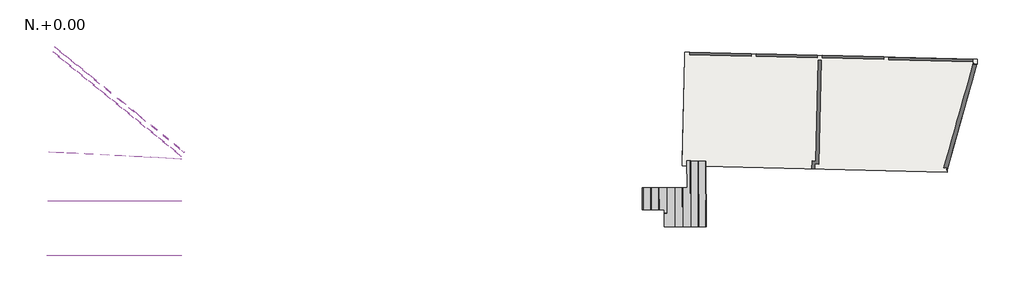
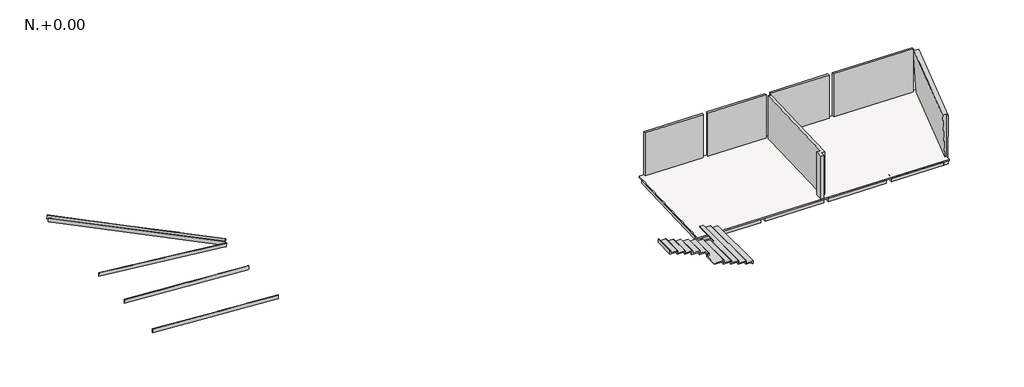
# One storey: 12 beams, 6 proxies, 1 slab, 1 stair flight.
"""IFC4 building model written with IfcOpenShell, lengths in millimetres."""

from ifc_helpers import new_model, si_unit, frame, origin, place, context, project, spatial, polyline, outline, extrude, faceted_brep, transform, mapped, element, save
from ifc_brep_helpers import plane_surface, spline_surface, advanced_brep
from components import stair_flight_43c18c51

model = new_model("IFC4")

# Units and contexts
model_context = context("Model", 3, world=origin())
ifc_project = project(units=[si_unit("LENGTHUNIT", "METRE", prefix="MILLI")], contexts=[model_context])

# Site, building, storey
site = spatial("IfcSite", under=ifc_project)
building = spatial("IfcBuilding", under=site)
storey = spatial("IfcBuildingStorey", under=building, Name="N.+0.00", Elevation=-3010.0)

# Beams
placement = place(None, origin())
element("IfcBeam", 1, ObjectType="Concrete-Rectangular Beam : VGT-304(18X03)EN MADERA", at=placement, inside=storey, context=model_context, shape_type="Brep", body=[
    faceted_brep([(7072.5055456, 5424.6254064, 5527.5922375), (7070.9385717, 5394.6665203, 5527.690929), (7059.117388, 5394.6665203, 5340.0), (7058.3670452, 5394.6665203, 5328.0864282), (7059.9340191, 5424.6254064, 5327.9877368), (7060.6905776, 5424.6254064, 5340.0), (246.811579, 5783.0536598, 5957.4893205), (234.2400525, 5783.0536598, 5757.8848197), (232.6730786, 5753.0947737, 5757.9835111), (245.2446051, 5753.0947737, 5957.5880119), (5480.6251158, 5508.2176279, 5627.8523366), (5450.6480228, 5509.7917736, 5629.7403592), (3780.1413826, 5597.5127849, 5734.9525084), (3750.1642896, 5599.0869306, 5736.840531), (2079.6576495, 5686.8079419, 5842.0526802), (2049.6805565, 5688.3820876, 5843.9407028), (2049.1566661, 5658.3684276, 5843.9736986), (2079.1337591, 5656.7942819, 5842.0856759), (3749.6403992, 5569.0732706, 5736.8735268), (3779.6174923, 5567.4991249, 5734.9855041), (5450.1241324, 5479.7781136, 5629.773355), (5480.1012254, 5478.2039679, 5627.8853323), (6998.7018097, 5397.7996386, 5331.8442748), (6998.7018097, 5427.840809, 5331.8442748)], [[[0, 1, 2, 3, 4, 5]], [[6, 7, 8, 9]], [[1, 0, 10, 11, 12, 13, 14, 15, 6, 9, 16, 17, 18, 19, 20, 21]], [[3, 2, 1, 21, 20, 19, 18, 17, 16, 9, 8, 22]], [[4, 3, 22, 8, 7, 23]], [[0, 5, 4, 23, 7, 6, 15, 14, 13, 12, 11, 10]]]),
])
element("IfcBeam", 2, ObjectType="Concrete-Rectangular Beam : VGT-305(18X03)EN MADERA", at=placement, inside=storey, context=model_context, shape_type="Brep", body=[
    faceted_brep([(7043.8755927, 3244.7441735, 5529.3954144), (7043.8755927, 3214.7441735, 5529.3954144), (7031.9470567, 3214.7441735, 5340.0), (7031.3040662, 3214.7441735, 5329.7909136), (7031.3040662, 3244.7441735, 5329.7909136), (7031.9470567, 3244.7441735, 5340.0), (183.9662693, 3244.7441735, 5961.447455), (171.3947428, 3244.7441735, 5761.8429543), (171.3947428, 3214.7441735, 5761.8429543), (183.9662693, 3214.7441735, 5961.447455), (5441.1160397, 3244.7441735, 5630.3407043), (5411.1114698, 3244.7441735, 5632.2304575), (3739.0736538, 3244.7441735, 5737.5390435), (3709.0690839, 3244.7441735, 5739.4287967), (2037.0312679, 3244.7441735, 5844.7373826), (2007.026698, 3244.7441735, 5846.6271358), (2006.5030461, 3214.7441735, 5846.6601165), (2036.5076159, 3214.7441735, 5844.7703633), (3708.545432, 3214.7441735, 5739.4617774), (3738.5500018, 3214.7441735, 5737.5720242), (5410.5878179, 3214.7441735, 5632.2634383), (5440.5923877, 3214.7441735, 5630.373685), (6998.7018097, 3214.7441735, 5331.8442748), (6998.7018097, 3244.7441735, 5331.8442748)], [[[0, 1, 2, 3, 4, 5]], [[6, 7, 8, 9]], [[1, 0, 10, 11, 12, 13, 14, 15, 6, 9, 16, 17, 18, 19, 20, 21]], [[3, 2, 1, 21, 20, 19, 18, 17, 16, 9, 8, 22]], [[4, 3, 22, 8, 7, 23]], [[0, 5, 4, 23, 7, 6, 15, 14, 13, 12, 11, 10]]]),
])
element("IfcBeam", 3, ObjectType="Concrete-Rectangular Beam : VGT-306(18X03)EN MADERA", at=placement, inside=storey, context=model_context, shape_type="Brep", body=[
    faceted_brep([(7043.8755927, 430.1773784, 5529.3954144), (7043.8755927, 400.1773784, 5529.3954144), (7031.9470567, 400.1773784, 5340.0), (7031.3040662, 400.1773784, 5329.7909136), (7031.3040662, 430.1773784, 5329.7909136), (7031.9470567, 430.1773784, 5340.0), (114.5402296, 430.1773784, 5965.8200583), (101.9687031, 430.1773784, 5766.2155576), (101.9687031, 400.1773784, 5766.2155576), (114.5402296, 400.1773784, 5965.8200583), (5391.9875935, 430.1773784, 5633.4349209), (5367.1380394, 430.1773784, 5635.0), (3689.9452076, 430.1773784, 5740.6332601), (3659.9406378, 430.1773784, 5742.5230133), (3659.4169858, 400.1773784, 5742.555994), (3689.4215557, 400.1773784, 5740.6662408), (5367.1380394, 400.1773784, 5635.0), (5391.4639416, 400.1773784, 5633.4679017), (6998.7018097, 400.1773784, 5331.8442748), (6998.7018097, 430.1773784, 5331.8442748)], [[[0, 1, 2, 3, 4, 5]], [[6, 7, 8, 9]], [[1, 0, 10, 11, 12, 13, 6, 9, 14, 15, 16, 17]], [[3, 2, 1, 17, 16, 15, 14, 9, 8, 18]], [[4, 3, 18, 8, 7, 19]], [[0, 5, 4, 19, 7, 6, 13, 12, 11, 10]]]),
])
element("IfcBeam", 4, ObjectType="Concrete-Rectangular Beam : VGT-310(18X03)EN MADERA", at=placement, inside=storey, context=model_context, shape_type="Brep", body=[
    faceted_brep([(425.182822, 10918.1319885, 5946.2551108), (444.0476211, 10941.4280754, 5945.0669646), (431.4760946, 10941.4280754, 5745.4624639), (412.6112955, 10918.1319885, 5746.6506101), (7059.1882169, 5524.7104932, 5528.4309919), (7047.3204223, 5524.7104932, 5340.0), (7046.6166904, 5524.7104932, 5328.8264912), (7065.4814895, 5548.0065801, 5327.638345), (7066.2600535, 5548.0065801, 5340.0), (7078.053016, 5548.0065801, 5527.2428458), (6998.7018097, 5602.2982092, 5331.8442748), (6998.7018097, 5563.6651114, 5331.8442748)], [[[0, 1, 2, 3]], [[4, 5, 6, 7, 8, 9]], [[1, 0, 4, 9]], [[2, 1, 9, 8, 7, 10]], [[3, 2, 10, 7, 6, 11]], [[0, 3, 11, 6, 5, 4]]]),
])
element("IfcBeam", 5, ObjectType="Concrete-Rectangular Beam : VGT-310(18X03)EN MADERA", at=placement, inside=storey, context=model_context, shape_type="Brep", body=[
    faceted_brep([(503.7422175, 11175.7359264, 5941.3072689), (522.6070166, 11199.0320132, 5940.1191227), (510.0354901, 11199.0320132, 5740.5146219), (491.1706909, 11175.7359264, 5741.7027681), (7199.7476628, 5731.9086227, 5519.5782517), (7187.1761363, 5731.9086227, 5319.9737509), (7206.0409354, 5755.2047096, 5318.7856047), (7218.6124619, 5755.2047096, 5518.3901055), (2202.6808154, 9794.5052207, 5834.3044131), (2239.5813547, 9764.5052207, 5831.9803367), (3752.7965862, 8534.266915, 5736.6747433), (3789.6971255, 8504.266915, 5734.3506669), (4537.5436235, 7896.2705181, 5687.2496645), (4567.5436235, 7871.8806306, 5685.3601991), (5431.3402782, 7169.6171913, 5630.9564031), (5468.2408175, 7139.6171913, 5628.6323267), (5515.7602222, 7139.6171913, 5625.639451), (5478.8596829, 7169.6171913, 5627.9635274), (4567.5436235, 7910.5137284, 5685.3601991), (4537.5436235, 7934.9036158, 5687.2496645), (3837.2165303, 8504.266915, 5731.3577912), (3800.315991, 8534.266915, 5733.6818676), (2287.1007594, 9764.5052207, 5828.987461), (2250.2002201, 9794.5052207, 5831.3115374), (7148.7018097, 5801.8212036, 5322.3969479), (6998.7018097, 5923.7706408, 5331.8442748), (7148.7018097, 5763.1881058, 5322.3969479), (6998.7018097, 5885.137543, 5331.8442748)], [[[0, 1, 2, 3]], [[4, 5, 6, 7]], [[1, 0, 8, 9, 10, 11, 12, 13, 14, 15, 4, 7, 16, 17, 18, 19, 20, 21, 22, 23]], [[2, 1, 23, 22, 21, 20, 19, 18, 17, 16, 7, 6, 24, 25]], [[3, 2, 25, 24, 6, 5, 26, 27]], [[0, 3, 27, 26, 5, 4, 15, 14, 13, 12, 11, 10, 9, 8]]]),
])
element("IfcBeam", 6, ObjectType="M_Hormigón-Viga rectangular : VC-101(25X25)", at=placement, inside=storey, context=model_context, shape_type="Brep", body=[
    faceted_brep([(43514.9640993, 10406.7265724, -3260.0), (47807.743374, 10301.9743187, -3260.0), (47843.6755126, 10301.0975039, -3260.0), (47843.6755126, 10301.0975039, -3080.0), (47807.743374, 10301.9743187, -3080.0), (43514.9640993, 10406.7265724, -3080.0), (47849.7741886, 10551.0231052, -3260.0), (43521.0627753, 10656.6521736, -3260.0), (43521.0627753, 10656.6521736, -3080.0), (47849.7741886, 10551.0231052, -3080.0)], [[[0, 1, 2, 3, 4, 5]], [[6, 2, 1, 0, 7]], [[6, 7, 8, 9]], [[2, 6, 9, 3]], [[7, 0, 5, 8]], [[5, 4, 3, 9, 8]]]),
    faceted_brep([(33264.1161008, 10906.9418369, -3260.0), (33258.0174247, 10657.0162357, -3260.0), (33258.0174247, 10657.0162357, -3080.0), (33264.1161008, 10906.9418369, -3080.0), (36427.0740484, 10579.6850239, -3260.0), (36433.1727244, 10829.6106252, -3260.0), (36433.1727244, 10829.6106252, -3080.0), (36427.0740484, 10579.6850239, -3080.0)], [[[0, 1, 2, 3]], [[4, 5, 6, 7]], [[1, 4, 7, 2]], [[1, 0, 5, 4]], [[5, 0, 3, 6]], [[3, 2, 7, 6]]]),
    faceted_brep([(36683.0983256, 10823.5119492, -3260.0), (36676.9996496, 10573.5863479, -3260.0), (36676.9996496, 10573.5863479, -3080.0), (36683.0983256, 10823.5119492, -3080.0), (39846.0562732, 10496.2551362, -3260.0), (39852.1549492, 10746.1807374, -3260.0), (39852.1549492, 10746.1807374, -3080.0), (39846.0562732, 10496.2551362, -3080.0)], [[[0, 1, 2, 3]], [[4, 5, 6, 7]], [[1, 4, 7, 2]], [[1, 0, 5, 4]], [[5, 0, 3, 6]], [[3, 2, 7, 6]]]),
    faceted_brep([(40102.0805504, 10740.0820614, -3260.0), (40095.9818744, 10490.1564601, -3260.0), (40095.9818744, 10490.1564601, -3080.0), (40102.0805504, 10740.0820614, -3080.0), (43265.0384981, 10412.8252484, -3260.0), (43271.1371741, 10662.7508496, -3260.0), (43271.1371741, 10662.7508496, -3080.0), (43265.0384981, 10412.8252484, -3080.0)], [[[0, 1, 2, 3]], [[4, 5, 6, 7]], [[1, 4, 7, 2]], [[1, 0, 5, 4]], [[5, 0, 3, 6]], [[3, 2, 7, 6]]]),
])
element("IfcBeam", 7, ObjectType="M_Hormigón-Viga rectangular : VC-102(25X25)", at=placement, inside=storey, context=model_context, shape_type="Brep", body=[
    faceted_brep([(33127.5057587, 5308.6083716, -3010.0), (33121.4070827, 5058.6827704, -3010.0), (36290.463707, 4981.3515586, -3010.0), (36296.562383, 5231.2771598, -3010.0), (33127.5057587, 5308.6083716, -3260.0), (36296.562383, 5231.2771598, -3260.0), (33121.4070827, 5058.6827704, -3260.0), (36290.463707, 4981.3515586, -3260.0)], [[[0, 1, 2, 3]], [[4, 0, 3, 5]], [[6, 4, 5, 7]], [[1, 6, 7, 2]], [[1, 0, 4, 6]], [[3, 2, 7, 5]]]),
    faceted_brep([(46241.124424, 4738.5358747, -3010.0), (46241.124424, 4738.5358747, -3080.0), (46241.124424, 4738.5358747, -3260.0), (46284.2145968, 4891.5593805, -3260.0), (46284.2145968, 4891.5593805, -3080.0), (46284.2145968, 4891.5593805, -3010.0), (46286.5557776, 4987.5016813, -3010.0), (46286.5557776, 4987.5016813, -3260.0), (43378.3537578, 4808.393107, -3010.0), (43384.4524338, 5058.3187082, -3010.0), (43384.4524338, 5058.3187082, -3260.0), (43378.3537578, 4808.393107, -3260.0)], [[[0, 1, 2, 3, 4, 5]], [[6, 5, 4, 3, 7]], [[8, 9, 10, 11]], [[5, 6, 9, 8, 0]], [[6, 7, 10, 9]], [[7, 3, 2, 11, 10]], [[2, 1, 0, 8, 11]]]),
    faceted_brep([(36540.3893082, 4975.2528826, -3010.0), (36546.4879842, 5225.1784838, -3010.0), (36546.4879842, 5225.1784838, -3260.0), (36540.3893082, 4975.2528826, -3260.0), (39709.4459318, 4897.9216708, -3010.0), (39715.5446078, 5147.847272, -3010.0), (39715.5446078, 5147.847272, -3260.0), (39709.4459318, 4897.9216708, -3260.0)], [[[0, 1, 2, 3]], [[1, 0, 4, 5]], [[2, 1, 5, 6]], [[3, 2, 6, 7]], [[0, 3, 7, 4]], [[5, 4, 7, 6]]]),
    faceted_brep([(39959.3715331, 4891.8229948, -3010.0), (39965.4702091, 5141.748596, -3010.0), (39965.4702091, 5141.748596, -3260.0), (39959.3715331, 4891.8229948, -3260.0), (43134.5268326, 5064.4173842, -3010.0), (43128.4281566, 4814.491783, -3010.0), (43128.4281566, 4814.491783, -3260.0), (43134.5268326, 5064.4173842, -3260.0)], [[[0, 1, 2, 3]], [[4, 5, 6, 7]], [[1, 0, 5, 4]], [[2, 1, 4, 7]], [[3, 2, 7, 6]], [[0, 3, 6, 5]]]),
])
element("IfcBeam", 8, ObjectType="M_Hormigón-Viga rectangular : VC-103(25X25)", at=placement, inside=storey, context=model_context, shape_type="Brep", body=[
    faceted_brep([(33127.5057587, 5308.6083716, -3260.0), (33258.0174252, 10657.0162357, -3260.0), (33258.0174252, 10657.0162357, -3080.0), (33127.5057587, 5308.6083716, -3080.0), (32877.579783, 5314.6916984, -3260.0), (33008.091824, 10663.1149117, -3260.0), (32877.579783, 5314.6916984, -3080.0), (33008.091824, 10663.1149117, -3080.0)], [[[0, 1, 2, 3]], [[0, 4, 5, 1]], [[5, 4, 6, 7]], [[4, 0, 3, 6]], [[1, 5, 7, 2]], [[3, 2, 7, 6]]]),
])
element("IfcBeam", 9, ObjectType="M_Hormigón-Viga rectangular : VC-103(25X25)", at=placement, inside=storey, context=model_context, shape_type="SweptSolid", body=[
    extrude(outline(polyline([(36546.4879831, 5225.1784821), (36296.5623819, 5231.2771581), (36427.0740484, 10579.6850245), (36676.9996496, 10573.5863485), (36546.4879831, 5225.1784821)])), frame((0.0, 0.0, -3260.0), z_axis=(0.0, 0.0, 1.0), x_axis=(1.0, 0.0, 0.0)), (0.0, 0.0, 1.0), 180.0),
])
element("IfcBeam", 10, ObjectType="M_Hormigón-Viga rectangular : VC-103(25X25)", at=placement, inside=storey, context=model_context, shape_type="SweptSolid", body=[
    extrude(outline(polyline([(39846.0562743, 10496.2551368), (40095.9818756, 10490.1564608), (39965.470209, 5141.7485949), (39715.5446078, 5147.8472709), (39846.0562743, 10496.2551368)])), frame((0.0, 0.0, -3260.0), z_axis=(0.0, 0.0, 1.0), x_axis=(1.0, 0.0, 0.0)), (0.0, 0.0, 1.0), 180.0),
])
element("IfcBeam", 11, ObjectType="M_Hormigón-Viga rectangular : VC-103(25X25)", at=placement, inside=storey, context=model_context, shape_type="SweptSolid", body=[
    extrude(outline(polyline([(43265.0384981, 10412.8252499), (43514.9640994, 10406.7265739), (43384.4524328, 5058.3187072), (43134.5268316, 5064.4173832), (43265.0384981, 10412.8252499)])), frame((0.0, 0.0, -3260.0), z_axis=(0.0, 0.0, 1.0), x_axis=(1.0, 0.0, 0.0)), (0.0, 0.0, 1.0), 180.0),
])
element("IfcBeam", 12, ObjectType="M_Hormigón-Viga rectangular : VC-104(25X25)", at=placement, inside=storey, context=model_context, shape_type="Brep", body=[
    faceted_brep([(46284.2145968, 4891.5593805, -3260.0), (46241.124424, 4738.5358747, -3260.0), (46241.124424, 4738.5358747, -3080.0), (46284.2145968, 4891.5593805, -3080.0), (46499.0746316, 4732.2413826, -3260.0), (46280.7819589, 4750.8888344, -3260.0), (46502.8000284, 4745.471157, -3260.0), (46502.8000284, 4745.471157, -3080.0), (46499.0746316, 4732.2413826, -3080.0), (46280.7819589, 4750.8888344, -3080.0)], [[[0, 1, 2, 3]], [[4, 1, 0, 5, 6]], [[4, 6, 7, 8]], [[3, 2, 8, 7, 9]], [[1, 4, 8, 2]], [[6, 5, 9, 7]], [[5, 0, 3, 9]]]),
    faceted_brep([(48065.6935821, 10295.6798266, -3260.0), (47843.6755126, 10301.0975039, -3260.0), (47807.743374, 10301.9743187, -3260.0), (47807.743374, 10301.9743187, -3080.0), (47843.6755126, 10301.0975039, -3080.0), (48065.6935821, 10295.6798266, -3080.0), (46536.8062362, 4994.7157596, -3260.0), (46533.3735983, 4854.0452135, -3260.0), (46533.3735983, 4854.0452135, -3080.0), (46536.8062362, 4994.7157596, -3080.0), (46314.7881667, 5000.1334369, -3260.0), (46314.7881667, 5000.1334369, -3080.0)], [[[0, 1, 2, 3, 4, 5]], [[6, 7, 8, 9]], [[10, 6, 9, 11]], [[2, 10, 11, 3]], [[2, 1, 0, 7, 6, 10]], [[7, 0, 5, 8]], [[5, 4, 3, 11, 9, 8]]]),
])

# Proxies
element("IfcBuildingElementProxy", 13, Name="Masa 14 : Masa 14", ObjectType="Masa 14 : Masa 14", at=placement, inside=storey, context=model_context, shape_type="SweptSolid", body=[
    extrude(outline(polyline([(33264.1161008, 10781.9046265), (33264.1161008, 10906.9418369), (36433.1727244, 10829.6106252), (36430.1233864, 10704.6478245), (33264.1161008, 10781.9046265)])), frame((0.0, 0.0, -3010.0), z_axis=(0.0, 0.0, 1.0), x_axis=(1.0, 0.0, 0.0)), (0.0, 0.0, 1.0), 2530.0),
])
element("IfcBuildingElementProxy", 14, Name="Masa 15 : Masa 14", ObjectType="Masa 15 : Masa 14", at=placement, inside=storey, context=model_context, shape_type="SweptSolid", body=[
    extrude(outline(polyline([(36683.0983256, 10698.4747387), (36683.0983256, 10823.5119492), (39852.1549493, 10746.1807374), (39849.1056113, 10621.2179368), (36683.0983256, 10698.4747387)])), frame((0.0, 0.0, -3010.0), z_axis=(0.0, 0.0, 1.0), x_axis=(1.0, 0.0, 0.0)), (0.0, 0.0, 1.0), 2530.0),
])
element("IfcBuildingElementProxy", 15, Name="Masa 16 : Masa 14", ObjectType="Masa 16 : Masa 14", at=placement, inside=storey, context=model_context, shape_type="SweptSolid", body=[
    extrude(outline(polyline([(40102.0805504, 10615.0448509), (40102.0805504, 10740.0820614), (43271.1371741, 10662.7508496), (43268.0878361, 10537.788049), (40102.0805504, 10615.0448509)])), frame((0.0, 0.0, -3010.0), z_axis=(0.0, 0.0, 1.0), x_axis=(1.0, 0.0, 0.0)), (0.0, 0.0, 1.0), 2530.0),
])
element("IfcBuildingElementProxy", 16, Name="Masa 17 : Masa 14", ObjectType="Masa 17 : Masa 14", at=placement, inside=storey, context=model_context, shape_type="SweptSolid", body=[
    extrude(outline(polyline([(43521.0627753, 10531.6149631), (43521.0627753, 10656.6521736), (47849.7741886, 10551.0231052), (47846.7248506, 10426.0603045), (43521.0627753, 10531.6149631)])), frame((0.0, 0.0, -3010.0), z_axis=(0.0, 0.0, 1.0), x_axis=(1.0, 0.0, 0.0)), (0.0, 0.0, 1.0), 2530.0),
])
element("IfcBuildingElementProxy", 17, Name="Masa 18 : Masa 18", ObjectType="Masa 18 : Masa 18", at=placement, inside=storey, context=model_context, shape_type="AdvancedBrep", body=[
    advanced_brep(
    [(46445.8757816, 4996.9346414, -2990.0), (46536.8062362, 4994.7157596, -2990.0), (46512.544354, 4930.4263481, -480.0), (46293.9348291, 4926.0782508, -480.0), (47846.8159136, 10292.5288845, -480.0), (47845.5151018, 10417.5221159, -480.0), (46514.0532957, 4785.4341997, -480.0), (48065.4470098, 10294.8041909, -480.0), (47938.8309893, 10298.7755247, -2990.0), (48062.2726332, 10295.763306, -2990.0), (46533.3195719, 4851.8311972, -2990.0)],
    [
        (0, 1),
        (1, 2),
        (2, 3),
        (3, 0),
        (4, 5),
        (5, 3),
        (2, 6),
        (6, 7),
        (7, 4),
        (0, 8),
        (8, 9),
        (9, 10),
        (10, 1),
        (10, 6),
        (9, 7),
        (8, 4),
        (8, 5),
    ],
    [
        spline_surface(1, 1, [[(46445.8757816, 4996.9346414, -2990.0), (46293.9348291, 4926.0782508, -480.0)], [(46536.8062362, 4994.7157596, -2990.0), (46512.544354, 4930.4263481, -480.0)]], [2, 2], [2, 2], [0.0, 1.0], [0.0, 1.0]),
        plane_surface(frame((47179.7184173, 7607.7989983, -480.0), z_axis=(0.0, 0.0, 1.0), x_axis=(-0.010406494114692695, 0.999945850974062, 0.0))),
        plane_surface(frame((47103.4210425, 7087.6040858, -2990.0), z_axis=(0.0, 0.0, -1.0), x_axis=(0.27105049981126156, 0.9625651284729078, 0.0))),
        spline_surface(1, 1, [[(46536.8062362, 4994.7157596, -2990.0), (46512.544354, 4930.4263481, -480.0)], [(46533.3195719, 4851.8311972, -2990.0), (46514.0532957, 4785.4341997, -480.0)]], [2, 2], [2, 2], [0.0, 1.0], [0.0, 1.0]),
        spline_surface(1, 1, [[(46533.3195719, 4851.8311972, -2990.0), (46514.0532957, 4785.4341997, -480.0)], [(48062.2726332, 10295.763306, -2990.0), (48065.4470098, 10294.8041909, -480.0)]], [2, 2], [2, 2], [0.0, 1.0], [0.0, 1.0]),
        spline_surface(1, 1, [[(48062.2726332, 10295.763306, -2990.0), (48065.4470098, 10294.8041909, -480.0)], [(47938.8309893, 10298.7755247, -2990.0), (47846.8159136, 10292.5288845, -480.0)]], [2, 2], [2, 2], [0.0, 1.0], [0.0, 1.0]),
        plane_surface(frame((47938.8309893, 10298.7755247, -2990.0), z_axis=(0.9992737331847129, 0.010399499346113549, 0.03665864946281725), x_axis=(-0.010406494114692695, 0.999945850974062, 0.0))),
        spline_surface(1, 1, [[(47938.8309893, 10298.7755247, -2990.0), (47845.5151018, 10417.5221159, -480.0)], [(46445.8757816, 4996.9346414, -2990.0), (46293.9348291, 4926.0782508, -480.0)]], [2, 2], [2, 2], [0.0, 1.0], [0.0, 1.0]),
    ],
    [
        (0, [[1, 2, 3, 4]]),
        (1, [[5, 6, -3, 7, 8, 9]]),
        (2, [[10, 11, 12, 13, -1]]),
        (3, [[-13, 14, -7, -2]]),
        (4, [[-12, 15, -8, -14]]),
        (5, [[-11, 16, -9, -15]]),
        (6, [[-5, -16, 17]]),
        (7, [[-10, -4, -6, -17]]),
    ],
),
])
element("IfcBuildingElementProxy", 18, Name="Masa 27 : Masa 27", ObjectType="Masa 27 : Masa 27", at=placement, inside=storey, context=model_context, shape_type="SweptSolid", body=[
    extrude(outline(polyline([(39896.0637064, 10495.0348572), (40045.9967542, 10491.3761961), (39915.4850877, 5142.9683312), (39715.5446067, 5147.847272), (39709.4459307, 4897.9216708), (39559.4905699, 4901.5808764), (39569.2473626, 5301.4172124), (39769.2101566, 5296.5377271), (39896.0637064, 10495.0348572)])), frame((0.0, 0.0, -3010.0), z_axis=(0.0, 0.0, 1.0), x_axis=(1.0, 0.0, 0.0)), (0.0, 0.0, 1.0), 2530.0),
])

# Slab
element("IfcSlab", 19, ObjectType="ACABADO EN MADERA 1", at=placement, inside=storey, context=model_context, shape_type="Brep", body=[
    faceted_brep([(32871.481481, 5064.7814464, -3080.0), (33008.0918235, 10663.1149117, -3080.0), (33014.1904995, 10913.0405129, -3080.0), (33264.1161008, 10906.9418369, -3080.0), (36433.1727244, 10829.6106252, -3080.0), (36683.0983256, 10823.5119492, -3080.0), (39852.1549492, 10746.1807374, -3080.0), (40102.0805504, 10740.0820614, -3080.0), (43271.1371741, 10662.7508496, -3080.0), (43521.0627753, 10656.6521736, -3080.0), (47849.7741886, 10551.0231052, -3080.0), (48099.6997899, 10544.9244292, -3080.0), (48093.6011139, 10294.9988294, -3080.0), (48065.6935821, 10295.6798281, -3080.0), (46533.3735983, 4854.0452135, -3080.0), (46530.7075602, 4744.7901584, -3080.0), (46530.3827028, 4731.4774041, -3080.0), (46499.0746316, 4732.2413826, -3080.0), (46241.124424, 4738.5358747, -3080.0), (32871.481481, 5064.7814464, -2990.0), (46530.3827028, 4731.4774041, -2990.0), (46530.7075602, 4744.7901584, -2990.0), (46533.3735983, 4854.0452135, -2990.0), (48065.6935821, 10295.6798281, -2990.0), (48093.6011139, 10294.9988294, -2990.0), (48099.6997899, 10544.9244292, -2990.0), (33264.1161008, 10906.9418369, -2990.0), (33014.1904995, 10913.0405129, -2990.0), (33008.0918235, 10663.1149117, -2990.0)], [[[0, 1, 2, 3, 4, 5, 6, 7, 8, 9, 10, 11, 12, 13, 14, 15, 16, 17, 18]], [[19, 20, 21, 22, 23, 24, 25, 26, 27, 28]], [[2, 1, 0, 19, 28, 27]], [[12, 11, 25, 24]], [[14, 13, 23, 22]], [[11, 10, 9, 8, 7, 6, 5, 4, 3, 2, 27, 26, 25]], [[13, 12, 24, 23]], [[16, 15, 14, 22, 21, 20]], [[0, 18, 17, 16, 20, 19]]]),
])

# Stair flight
stair_flight_shape = stair_flight_43c18c51(model_context)
element("IfcStairFlight", 20, ObjectType="Huella 50 mm Contrahuella 13 mm", at=placement, inside=storey, context=model_context, shape_type="MappedRepresentation", body=[
    mapped(stair_flight_shape, transform((0.0, 0.0, 0.0), x_axis=(1.0, 0.0, 0.0), y_axis=(0.0, 1.0, 0.0), z_axis=(0.0, 0.0, 1.0))),
])

save(model, "model.ifc")
